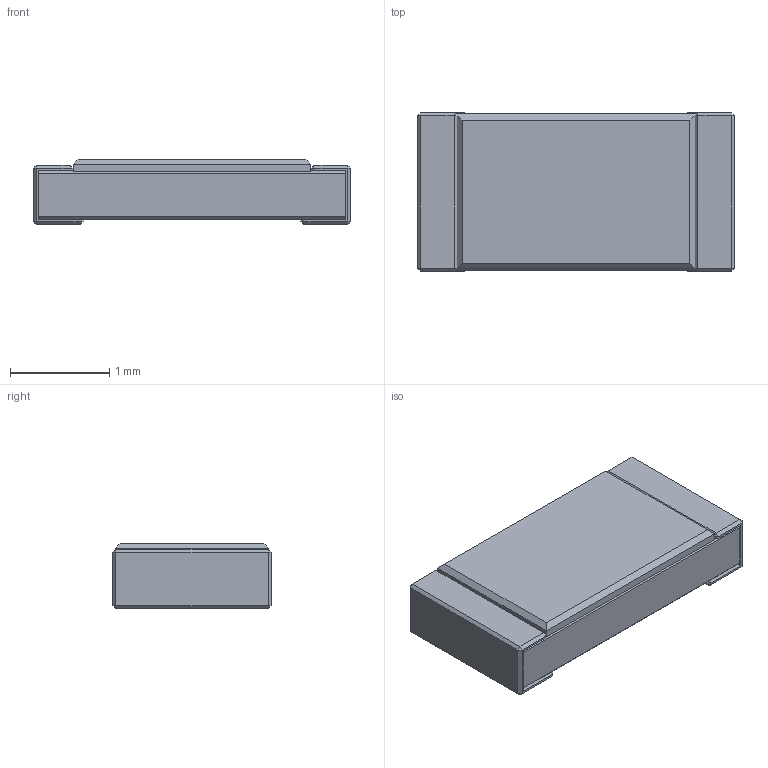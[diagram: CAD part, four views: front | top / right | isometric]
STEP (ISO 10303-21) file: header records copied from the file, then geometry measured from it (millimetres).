
FILE_DESCRIPTION(('FreeCAD Model'),'2;1');
FILE_NAME('/home/kammutierspule/Gliderbits/kicad3Dmodels/generated/Resistors/Chip/Fusion.step','2017-02-06T20:51:48',('kicad StepUp'),('ksu MCAD'), 'Open CASCADE STEP processor 6.8','FreeCAD','Unknown');
FILE_SCHEMA(('AUTOMOTIVE_DESIGN_CC2 { 1 2 10303 214 -1 1 5 4 }'));
Length unit declared in the file: millimetre
Products named in the file (2): ASSEMBLY; Fusion
Assembly tree (1 placements, depth 2):
  ASSEMBLY
    Fusion
Bounding box: 3.2 x 1.6 x 0.66 mm (x, y, z)
Volume: 3.1 mm3; surface area: 16 mm2
Topology: 1 solids, 1 shells, 84 faces, 190 edges, 108 vertices
Faces by surface type: plane 84
Entity records: 2846 total; most frequent: CARTESIAN_POINT 384, ORIENTED_EDGE 380, DIRECTION 362, EDGE_CURVE 190, LINE 190, VECTOR 190, VERTEX_POINT 108, AXIS2_PLACEMENT_3D 86
